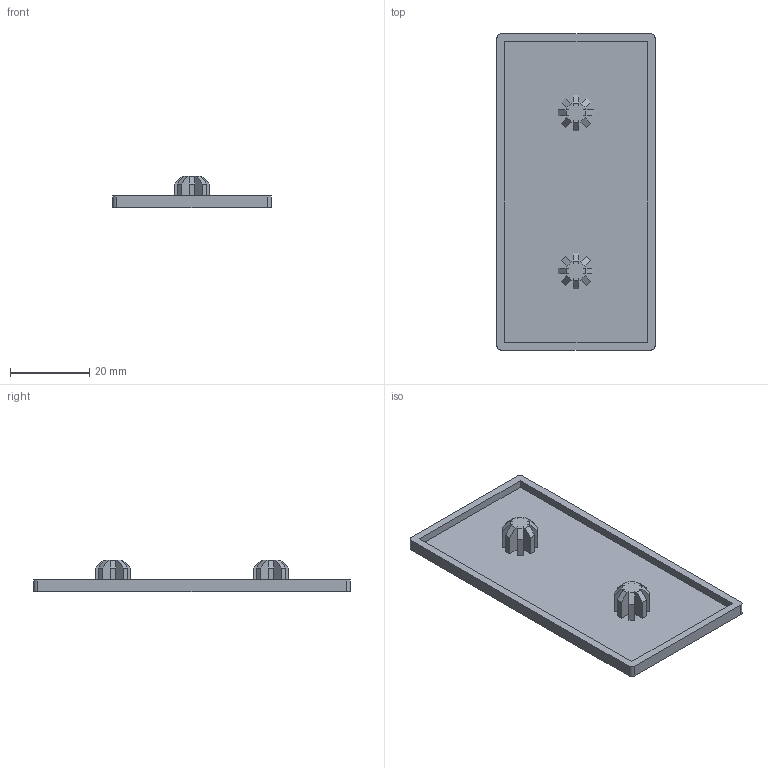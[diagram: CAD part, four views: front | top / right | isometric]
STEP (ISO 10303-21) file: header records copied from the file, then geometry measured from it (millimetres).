
FILE_DESCRIPTION(/* description */ (''),/* implementation_level */ '2;1');
FILE_NAME(/* name */ 'D:\cadd\new~產品型錄\端蓋\8系列\AMC-LN4080.stp',/* time_stamp */ '2016-12-09T17:01:18+08:00',/* author */ ('Owner'),/* organization */ (''),/* preprocessor_version */ 'ST-DEVELOPER v15.2',/* originating_system */ 'Autodesk Inventor 2014',/* authorisation */ '');
FILE_SCHEMA (('AUTOMOTIVE_DESIGN { 1 0 10303 214 3 1 1 }'));
Length unit declared in the file: millimetre
Products named in the file (1): AMC-LN4080
Bounding box: 40 x 80 x 8 mm (x, y, z)
Volume: 4681.3 mm3; surface area: 8239.4 mm2
Topology: 1 solids, 1 shells, 81 faces, 228 edges, 152 vertices
Faces by surface type: plane 77, cylinder 4
Entity records: 2591 total; most frequent: CARTESIAN_POINT 462, ORIENTED_EDGE 456, DIRECTION 400, EDGE_CURVE 228, LINE 220, VECTOR 220, VERTEX_POINT 152, AXIS2_PLACEMENT_3D 90
